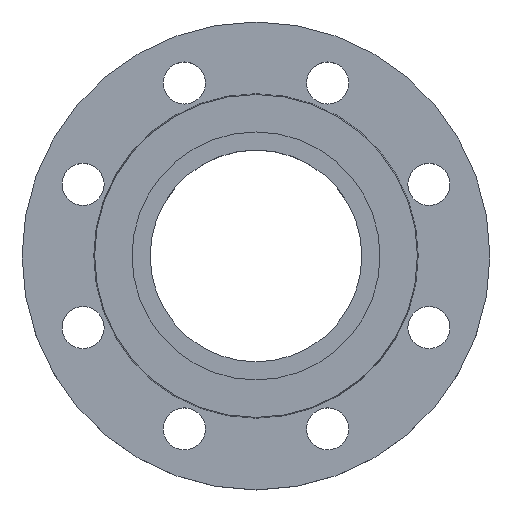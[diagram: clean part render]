
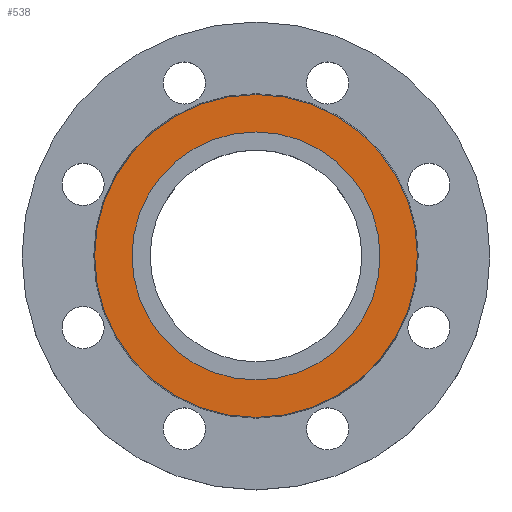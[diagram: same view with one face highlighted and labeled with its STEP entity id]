
A CAD part, top view. The second image highlights one B-rep face of the part: STEP entity #538.
In plain terms, the highlighted planar face has unit normal (0, 0, 1).
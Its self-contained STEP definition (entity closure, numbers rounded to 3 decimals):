
#26 = EDGE_CURVE ( 'NONE', #696, #746, #396, .T. ) ;
#32 = AXIS2_PLACEMENT_3D ( 'NONE', #293, #292, #291 ) ;
#38 = EDGE_CURVE ( 'NONE', #746, #696, #268, .T. ) ;
#103 = CARTESIAN_POINT ( 'NONE',  ( 69., 0., 0. ) ) ;
#146 = CARTESIAN_POINT ( 'NONE',  ( 53., 0., 0. ) ) ;
#154 = CARTESIAN_POINT ( 'NONE',  ( -69., 0., 0. ) ) ;
#169 = CARTESIAN_POINT ( 'NONE',  ( -53., 0., 0. ) ) ;
#242 = DIRECTION ( 'NONE',  ( -1., 0., 0. ) ) ;
#243 = DIRECTION ( 'NONE',  ( 0., 0., -1. ) ) ;
#244 = CARTESIAN_POINT ( 'NONE',  ( 0., 0., 0. ) ) ;
#268 = CIRCLE ( 'NONE', #615, 53. ) ;
#291 = DIRECTION ( 'NONE',  ( 1., 0., 0. ) ) ;
#292 = DIRECTION ( 'NONE',  ( 0., 0., 1. ) ) ;
#293 = CARTESIAN_POINT ( 'NONE',  ( 0., 0., 0. ) ) ;
#294 = PLANE ( 'NONE',  #32 ) ;
#295 = FACE_BOUND ( 'NONE', #816, .T. ) ;
#296 = FACE_OUTER_BOUND ( 'NONE', #509, .T. ) ;
#325 = DIRECTION ( 'NONE',  ( -1., 0., 0. ) ) ;
#326 = DIRECTION ( 'NONE',  ( 0., 0., -1. ) ) ;
#338 = CARTESIAN_POINT ( 'NONE',  ( 0., 0., 0. ) ) ;
#396 = CIRCLE ( 'NONE', #505, 53. ) ;
#418 = AXIS2_PLACEMENT_3D ( 'NONE', #338, #326, #325 ) ;
#505 = AXIS2_PLACEMENT_3D ( 'NONE', #592, #593, #595 ) ;
#507 = EDGE_CURVE ( 'NONE', #738, #940, #754, .T. ) ;
#509 = EDGE_LOOP ( 'NONE', ( #879, #768 ) ) ;
#538 = ADVANCED_FACE ( 'NONE', ( #296, #295 ), #294, .T. ) ;
#558 = CIRCLE ( 'NONE', #684, 69. ) ;
#592 = CARTESIAN_POINT ( 'NONE',  ( 0., 0., 0. ) ) ;
#593 = DIRECTION ( 'NONE',  ( 0., 0., -1. ) ) ;
#595 = DIRECTION ( 'NONE',  ( -1., 0., 0. ) ) ;
#605 = EDGE_CURVE ( 'NONE', #940, #738, #558, .T. ) ;
#612 = CARTESIAN_POINT ( 'NONE',  ( 0., 0., 0. ) ) ;
#613 = DIRECTION ( 'NONE',  ( 0., 0., -1. ) ) ;
#614 = DIRECTION ( 'NONE',  ( -1., 0., 0. ) ) ;
#615 = AXIS2_PLACEMENT_3D ( 'NONE', #612, #613, #614 ) ;
#684 = AXIS2_PLACEMENT_3D ( 'NONE', #244, #243, #242 ) ;
#696 = VERTEX_POINT ( 'NONE', #169 ) ;
#738 = VERTEX_POINT ( 'NONE', #154 ) ;
#746 = VERTEX_POINT ( 'NONE', #146 ) ;
#754 = CIRCLE ( 'NONE', #418, 69. ) ;
#767 = ORIENTED_EDGE ( 'NONE', *, *, #26, .T. ) ;
#768 = ORIENTED_EDGE ( 'NONE', *, *, #605, .F. ) ;
#816 = EDGE_LOOP ( 'NONE', ( #767, #880 ) ) ;
#879 = ORIENTED_EDGE ( 'NONE', *, *, #507, .F. ) ;
#880 = ORIENTED_EDGE ( 'NONE', *, *, #38, .T. ) ;
#940 = VERTEX_POINT ( 'NONE', #103 ) ;
